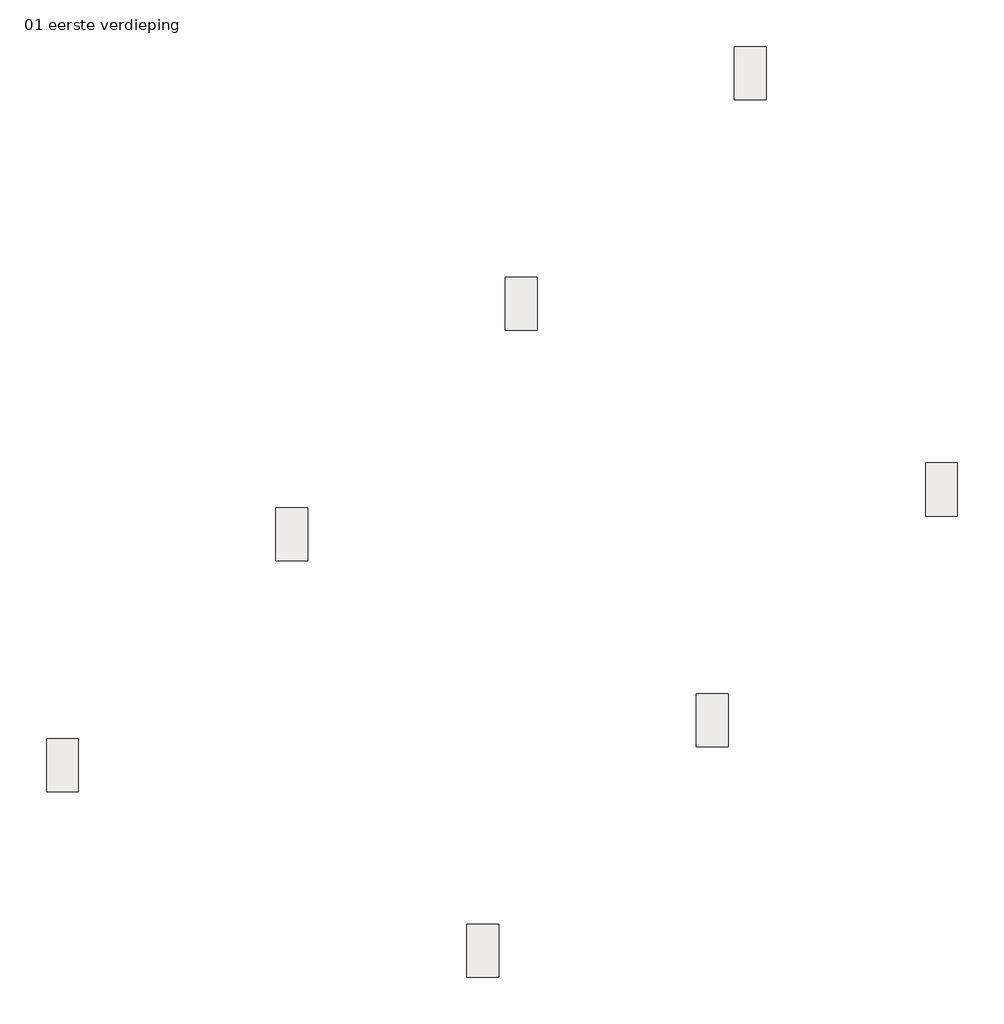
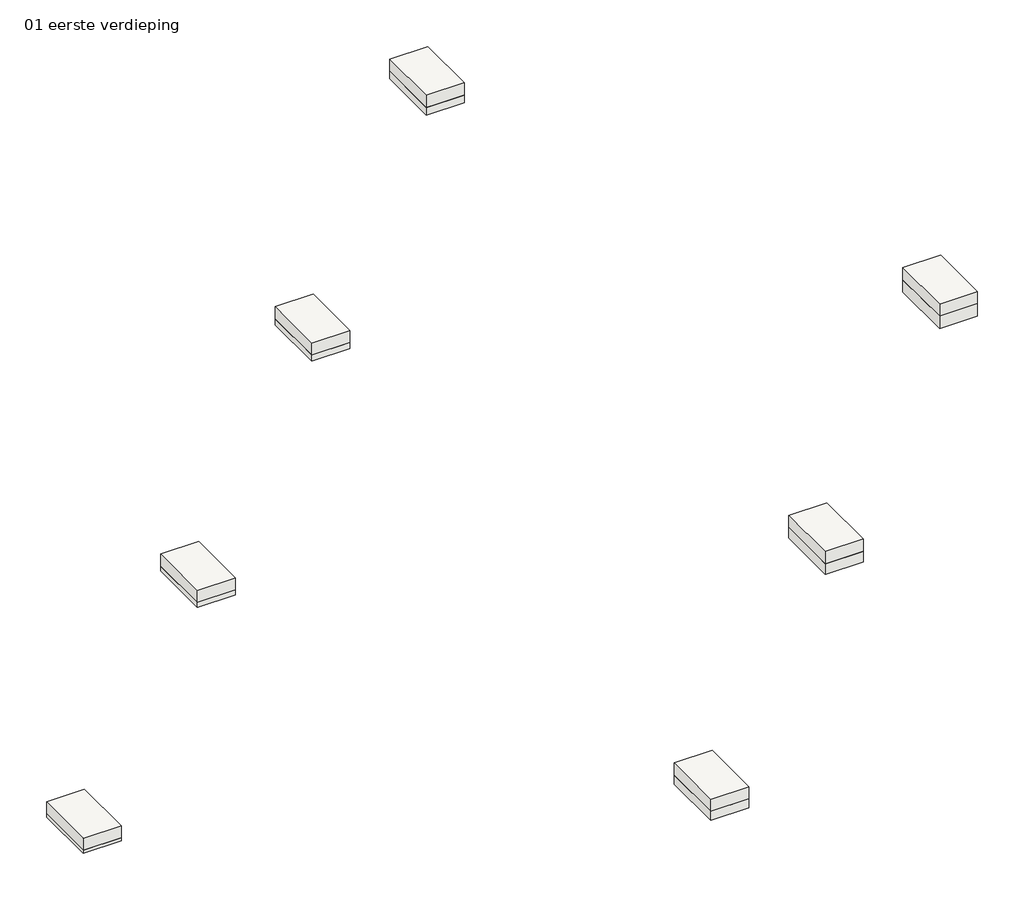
# One storey: 7 coverings, 7 slabs.
"""IFC4 building model written with IfcOpenShell, lengths in millimetres."""

from ifc_helpers import new_model, si_unit, frame, origin, place, context, project, spatial, polyline, outline, extrude, element, save

model = new_model("IFC4")

# Units and contexts
model_context = context("Model", 3, world=origin())
ifc_project = project(units=[si_unit("LENGTHUNIT", "METRE", prefix="MILLI")], contexts=[model_context])

# Site, building, storey
site = spatial("IfcSite", under=ifc_project)
building = spatial("IfcBuilding", under=site)
storey = spatial("IfcBuildingStorey", under=building, Name="01 eerste verdieping", Elevation=985.0)

# Coverings
placement = place(None, origin())
element("IfcCovering", 1, ObjectType="NLRS_45_CEI_Heraklith - Heratekta+ 050x590x985mm", at=placement, inside=storey, context=model_context, shape_type="SweptSolid", body=[
    extrude(outline(polyline([(590.0, 1535.0), (0.0, 1535.0), (0.0, 2520.0), (590.0, 2520.0), (590.0, 1535.0)])), frame((0.0, 0.0, 935.0), z_axis=(0.0, 0.0, 1.0), x_axis=(1.0, 0.0, 0.0)), (0.0, 0.0, 1.0), 50.0),
])
element("IfcCovering", 2, ObjectType="NLRS_45_CEI_Heraklith - Heratekta+ 080x590x985mm", at=placement, inside=storey, context=model_context, shape_type="SweptSolid", body=[
    extrude(outline(polyline([(4832.6406871, 5807.6406871), (4242.6406871, 5807.6406871), (4242.6406871, 6792.6406871), (4832.6406871, 6792.6406871), (4832.6406871, 5807.6406871)])), frame((0.0, 0.0, 905.0), z_axis=(0.0, 0.0, 1.0), x_axis=(1.0, 0.0, 0.0)), (0.0, 0.0, 1.0), 80.0),
])
element("IfcCovering", 3, ObjectType="NLRS_45_CEI_Heraklith - Heratekta+ 100x590x985mm", at=placement, inside=storey, context=model_context, shape_type="SweptSolid", body=[
    extrude(outline(polyline([(9075.2813742, 10070.2813742), (8485.2813742, 10070.2813742), (8485.2813742, 11055.2813742), (9075.2813742, 11055.2813742), (9075.2813742, 10070.2813742)])), frame((0.0, 0.0, 885.0), z_axis=(0.0, 0.0, 1.0), x_axis=(1.0, 0.0, 0.0)), (0.0, 0.0, 1.0), 100.0),
])
element("IfcCovering", 4, ObjectType="NLRS_45_CEI_Heraklith - Heratekta+ 125x590x985mm", at=placement, inside=storey, context=model_context, shape_type="SweptSolid", body=[
    extrude(outline(polyline([(13317.9220614, 14337.9220614), (12727.9220614, 14337.9220614), (12727.9220614, 15322.9220614), (13317.9220614, 15322.9220614), (13317.9220614, 14337.9220614)])), frame((0.0, 0.0, 860.0), z_axis=(0.0, 0.0, 1.0), x_axis=(1.0, 0.0, 0.0)), (0.0, 0.0, 1.0), 125.0),
])
element("IfcCovering", 5, ObjectType="NLRS_45_CEI_Heraklith - Heratekta+ 150x985x590mm", at=placement, inside=storey, context=model_context, shape_type="SweptSolid", body=[
    extrude(outline(polyline([(8368.1745931, -1900.5339059), (7778.1745931, -1900.5339059), (7778.1745931, -915.5339059), (8368.1745931, -915.5339059), (8368.1745931, -1900.5339059)])), frame((0.0, 0.0, 835.0), z_axis=(0.0, 0.0, 1.0), x_axis=(1.0, 0.0, 0.0)), (0.0, 0.0, 1.0), 150.0),
])
element("IfcCovering", 6, ObjectType="NLRS_45_CEI_Heraklith - Heratekta+ 175x985x590mm", at=placement, inside=storey, context=model_context, shape_type="SweptSolid", body=[
    extrude(outline(polyline([(12610.8152802, 2367.1067812), (12020.8152802, 2367.1067812), (12020.8152802, 3352.1067812), (12610.8152802, 3352.1067812), (12610.8152802, 2367.1067812)])), frame((0.0, 0.0, 810.0), z_axis=(0.0, 0.0, 1.0), x_axis=(1.0, 0.0, 0.0)), (0.0, 0.0, 1.0), 175.0),
])
element("IfcCovering", 7, ObjectType="NLRS_45_CEI_Heraklith - Heratekta+ 200x590x985mm", at=placement, inside=storey, context=model_context, shape_type="SweptSolid", body=[
    extrude(outline(polyline([(16853.4559673, 6634.7474683), (16263.4559673, 6634.7474683), (16263.4559673, 7619.7474683), (16853.4559673, 7619.7474683), (16853.4559673, 6634.7474683)])), frame((0.0, 0.0, 785.0), z_axis=(0.0, 0.0, 1.0), x_axis=(1.0, 0.0, 0.0)), (0.0, 0.0, 1.0), 200.0),
])

# Slabs
element("IfcSlab", 8, ObjectType="Generic 200mm", at=placement, inside=storey, context=model_context, shape_type="SweptSolid", body=[
    extrude(outline(polyline([(590.0, 2520.0), (590.0, 1535.0), (0.0, 1535.0), (0.0, 2520.0), (590.0, 2520.0)])), frame((0.0, 0.0, 985.0), z_axis=(0.0, 0.0, 1.0), x_axis=(1.0, 0.0, 0.0)), (0.0, 0.0, 1.0), 200.0),
])
element("IfcSlab", 9, ObjectType="Generic 200mm", at=placement, inside=storey, context=model_context, shape_type="SweptSolid", body=[
    extrude(outline(polyline([(4832.6406871, 6792.6406871), (4832.6406871, 5807.6406871), (4242.6406871, 5807.6406871), (4242.6406871, 6792.6406871), (4832.6406871, 6792.6406871)])), frame((0.0, 0.0, 985.0), z_axis=(0.0, 0.0, 1.0), x_axis=(1.0, 0.0, 0.0)), (0.0, 0.0, 1.0), 200.0),
])
element("IfcSlab", 10, ObjectType="Generic 200mm", at=placement, inside=storey, context=model_context, shape_type="SweptSolid", body=[
    extrude(outline(polyline([(8485.2813742, 11055.2813742), (9075.2813742, 11055.2813742), (9075.2813742, 10070.2813742), (8485.2813742, 10070.2813742), (8485.2813742, 11055.2813742)])), frame((0.0, 0.0, 985.0), z_axis=(0.0, 0.0, 1.0), x_axis=(1.0, 0.0, 0.0)), (0.0, 0.0, 1.0), 200.0),
])
element("IfcSlab", 11, ObjectType="Generic 200mm", at=placement, inside=storey, context=model_context, shape_type="SweptSolid", body=[
    extrude(outline(polyline([(13317.9220614, 15322.9220614), (13317.9220614, 14337.9220614), (12727.9220614, 14337.9220614), (12727.9220614, 15322.9220614), (13317.9220614, 15322.9220614)])), frame((0.0, 0.0, 985.0), z_axis=(0.0, 0.0, 1.0), x_axis=(1.0, 0.0, 0.0)), (0.0, 0.0, 1.0), 200.0),
])
element("IfcSlab", 12, ObjectType="Generic 200mm", at=placement, inside=storey, context=model_context, shape_type="SweptSolid", body=[
    extrude(outline(polyline([(16853.4559673, 7619.7474683), (16853.4559673, 6634.7474683), (16263.4559673, 6634.7474683), (16263.4559673, 7619.7474683), (16853.4559673, 7619.7474683)])), frame((0.0, 0.0, 985.0), z_axis=(0.0, 0.0, 1.0), x_axis=(1.0, 0.0, 0.0)), (0.0, 0.0, 1.0), 200.0),
])
element("IfcSlab", 13, ObjectType="Generic 200mm", at=placement, inside=storey, context=model_context, shape_type="SweptSolid", body=[
    extrude(outline(polyline([(12610.8152802, 3352.1067812), (12610.8152802, 2367.1067812), (12020.8152802, 2367.1067812), (12020.8152802, 3352.1067812), (12610.8152802, 3352.1067812)])), frame((0.0, 0.0, 985.0), z_axis=(0.0, 0.0, 1.0), x_axis=(1.0, 0.0, 0.0)), (0.0, 0.0, 1.0), 200.0),
])
element("IfcSlab", 14, ObjectType="Generic 200mm", at=placement, inside=storey, context=model_context, shape_type="SweptSolid", body=[
    extrude(outline(polyline([(8368.1745931, -915.5339059), (8368.1745931, -1900.5339059), (7778.1745931, -1900.5339059), (7778.1745931, -915.5339059), (8368.1745931, -915.5339059)])), frame((0.0, 0.0, 985.0), z_axis=(0.0, 0.0, 1.0), x_axis=(1.0, 0.0, 0.0)), (0.0, 0.0, 1.0), 200.0),
])

save(model, "model.ifc")
